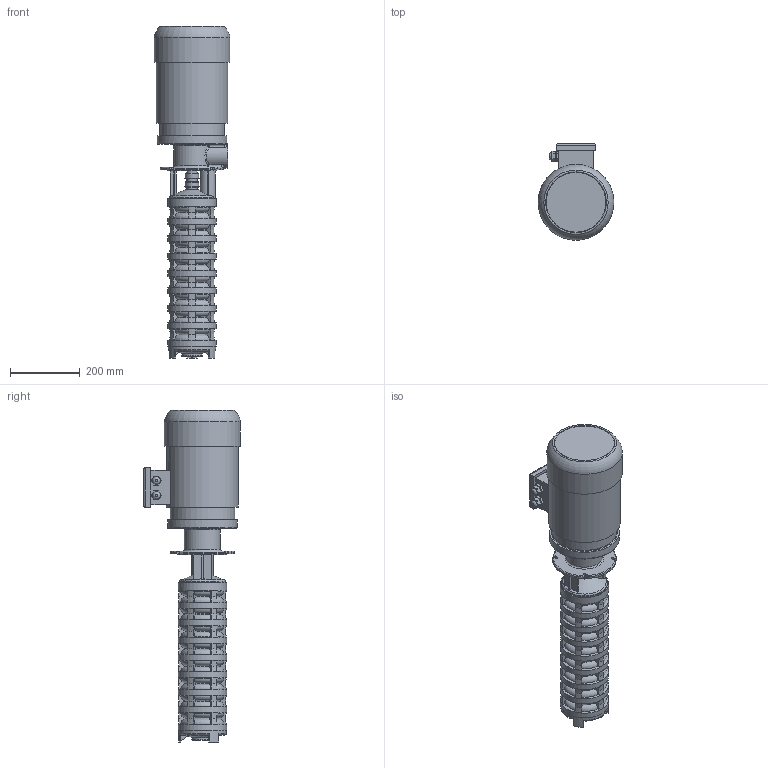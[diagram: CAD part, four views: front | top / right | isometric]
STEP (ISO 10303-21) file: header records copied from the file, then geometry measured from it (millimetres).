
FILE_DESCRIPTION(/* description */ ('Unknown'),/* implementation_level */ '2;1');
FILE_NAME(/* name */ 'gp9-540',/* time_stamp */ '2025-06-17T14:06:10+03:00',/* author */ ('Unknown'),/* organization */ ('Unknown'),/* preprocessor_version */ 'ST-DEVELOPER v16.7',/* originating_system */ 'DEX',/* authorisation */ $);
FILE_SCHEMA (('AUTOMOTIVE_DESIGN {1 0 10303 214 3 1 1}'));
Length unit declared in the file: millimetre
Products named in the file (1): gp9-540
Bounding box: 218 x 277.5 x 952.99 mm (x, y, z)
Volume: 19275652.7 mm3; surface area: 736056.3 mm2
Topology: 1 solids, 1 shells, 676 faces, 1849 edges, 1210 vertices
Faces by surface type: plane 223, cone 129, cylinder 124, torus 116, bspline 84
Full cylindrical faces by diameter (mm): 17 x2, 21.5 x2, 29 x3, 33 x2, 35 x2, 39 x2, 40.5 x2, 45 x1, 47 x1, 60 x1, 137 x1, 139 x9, 140 x1, 185.379 x1, 200 x1, 206 x1, 218 x1
Entity records: 23920 total; most frequent: CARTESIAN_POINT 7229, ORIENTED_EDGE 3490, DIRECTION 3454, EDGE_CURVE 1745, AXIS2_PLACEMENT_3D 1323, VERTEX_POINT 1180, LINE 808, VECTOR 808
